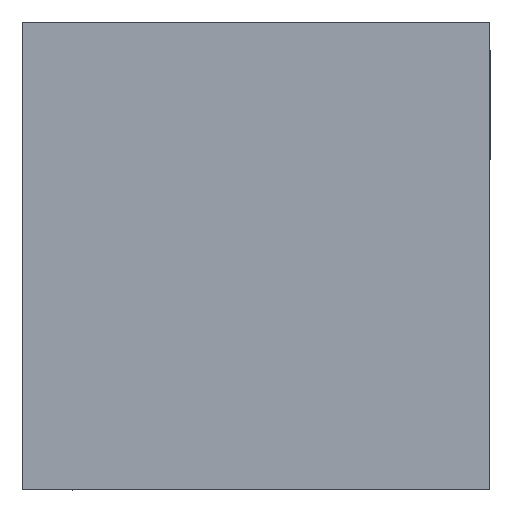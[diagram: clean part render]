
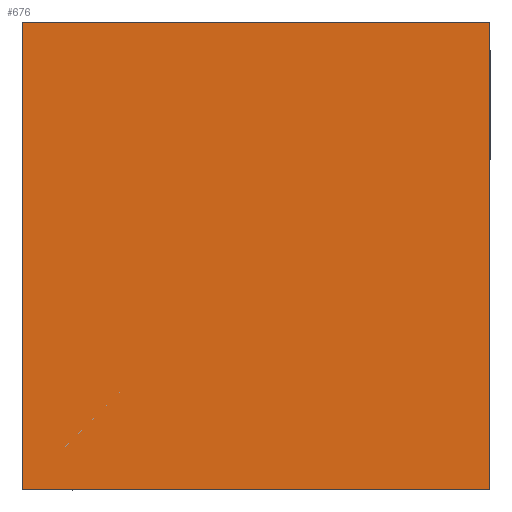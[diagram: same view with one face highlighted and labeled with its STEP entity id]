
A CAD part, left-side view. The second image highlights one B-rep face of the part: STEP entity #676.
In plain terms, the highlighted planar face has unit normal (-1, 0, 0).
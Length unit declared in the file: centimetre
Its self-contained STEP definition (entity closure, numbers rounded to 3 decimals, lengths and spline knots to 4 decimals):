
#29 = DIRECTION ( 'NONE',  ( 0., -1., 0. ) ) ;
#54 = CARTESIAN_POINT ( 'NONE',  ( 0., 1000., 1000. ) ) ;
#55 = ORIENTED_EDGE ( 'NONE', *, *, #938, .T. ) ;
#98 = DIRECTION ( 'NONE',  ( 0., 0., -1. ) ) ;
#112 = LINE ( 'NONE', #767, #207 ) ;
#147 = CARTESIAN_POINT ( 'NONE',  ( 0., 1000., 1000. ) ) ;
#190 = LINE ( 'NONE', #750, #373 ) ;
#207 = VECTOR ( 'NONE', #688, 100. ) ;
#219 = DIRECTION ( 'NONE',  ( 0., 0., -1. ) ) ;
#221 = PLANE ( 'NONE',  #883 ) ;
#293 = DIRECTION ( 'NONE',  ( 0., 0., -1. ) ) ;
#304 = VERTEX_POINT ( 'NONE', #1030 ) ;
#330 = VECTOR ( 'NONE', #219, 100. ) ;
#371 = EDGE_LOOP ( 'NONE', ( #55, #897, #892, #643 ) ) ;
#373 = VECTOR ( 'NONE', #29, 100. ) ;
#443 = CARTESIAN_POINT ( 'NONE',  ( 0., 0., 0. ) ) ;
#459 = FACE_OUTER_BOUND ( 'NONE', #371, .T. ) ;
#499 = EDGE_CURVE ( 'NONE', #1026, #304, #190, .T. ) ;
#513 = LINE ( 'NONE', #597, #648 ) ;
#527 = EDGE_CURVE ( 'NONE', #1026, #565, #513, .T. ) ;
#565 = VERTEX_POINT ( 'NONE', #659 ) ;
#597 = CARTESIAN_POINT ( 'NONE',  ( 0., 1000., 1000. ) ) ;
#609 = CARTESIAN_POINT ( 'NONE',  ( 0., 0., 1000. ) ) ;
#643 = ORIENTED_EDGE ( 'NONE', *, *, #527, .T. ) ;
#648 = VECTOR ( 'NONE', #98, 100. ) ;
#659 = CARTESIAN_POINT ( 'NONE',  ( 0., 1000., 0. ) ) ;
#676 = ADVANCED_FACE ( 'NONE', ( #459 ), #221, .F. ) ;
#688 = DIRECTION ( 'NONE',  ( 0., -1., 0. ) ) ;
#750 = CARTESIAN_POINT ( 'NONE',  ( 0., 1000., 1000. ) ) ;
#767 = CARTESIAN_POINT ( 'NONE',  ( 0., 1000., 0. ) ) ;
#883 = AXIS2_PLACEMENT_3D ( 'NONE', #54, #926, #293 ) ;
#892 = ORIENTED_EDGE ( 'NONE', *, *, #499, .F. ) ;
#897 = ORIENTED_EDGE ( 'NONE', *, *, #945, .F. ) ;
#920 = VERTEX_POINT ( 'NONE', #443 ) ;
#926 = DIRECTION ( 'NONE',  ( 1., 0., 0. ) ) ;
#938 = EDGE_CURVE ( 'NONE', #565, #920, #112, .T. ) ;
#945 = EDGE_CURVE ( 'NONE', #304, #920, #1002, .T. ) ;
#1002 = LINE ( 'NONE', #609, #330 ) ;
#1026 = VERTEX_POINT ( 'NONE', #147 ) ;
#1030 = CARTESIAN_POINT ( 'NONE',  ( 0., 0., 1000. ) ) ;
